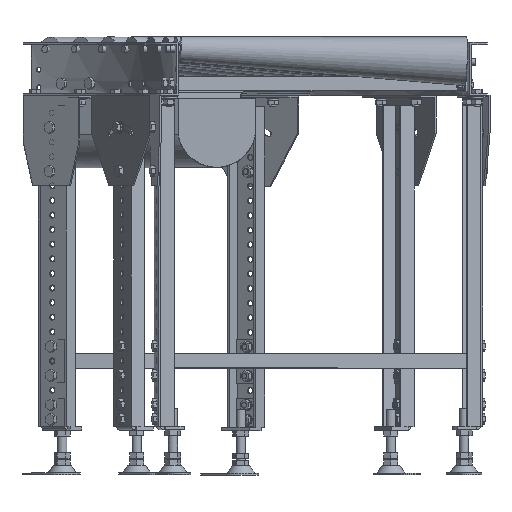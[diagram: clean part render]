
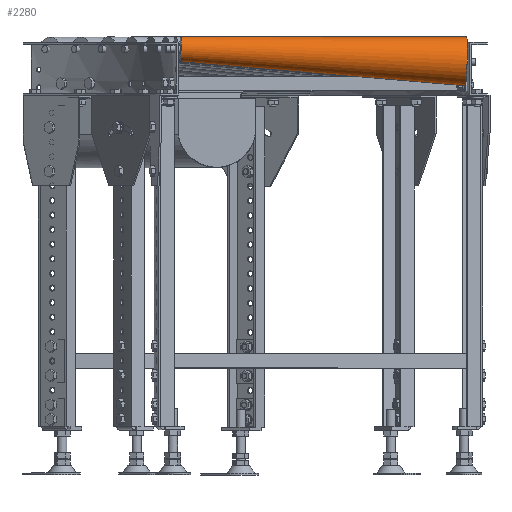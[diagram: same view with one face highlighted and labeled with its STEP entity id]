
A CAD part, top view. The second image highlights one B-rep face of the part: STEP entity #2280.
In plain terms, the highlighted free-form (B-spline) face has degree [2, 1] with [7, 2] control points.
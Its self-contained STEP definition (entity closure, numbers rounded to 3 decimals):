
#2280=ADVANCED_FACE('',(#10317),#10316,.T.);
#10316=( BOUNDED_SURFACE() B_SPLINE_SURFACE( 2,1,((#35501,#35502),(#35503,#35504),(#35505,#35506),(#35507,#35508),(#35509,#35510),(#35511,#35512),(#35513,#35514)), .UNSPECIFIED.,.T.,.F.,.F.) B_SPLINE_SURFACE_WITH_KNOTS((3,2,2,3),(2,2),(0.,0.333,0.667,1.),(0.,1.), .UNSPECIFIED. ) GEOMETRIC_REPRESENTATION_ITEM() RATIONAL_B_SPLINE_SURFACE(((1.,1.),(0.5,0.5),(1.,1.),(0.5,0.5),(1.,1.),(0.5,0.5),(1.,1.))) REPRESENTATION_ITEM('') SURFACE() );
#10317=FACE_OUTER_BOUND('',#35515,.T.);
#35501=CARTESIAN_POINT('',(505.58,-9.775,-15.153));
#35502=CARTESIAN_POINT('',(995.705,-19.271,-29.842));
#35503=CARTESIAN_POINT('',(505.58,-40.83,4.923));
#35504=CARTESIAN_POINT('',(995.705,-80.435,9.701));
#35505=CARTESIAN_POINT('',(503.088,-42.636,-31.928));
#35506=CARTESIAN_POINT('',(990.797,-83.993,-62.879));
#35507=CARTESIAN_POINT('',(500.596,-44.443,-68.779));
#35508=CARTESIAN_POINT('',(985.889,-87.552,-135.459));
#35509=CARTESIAN_POINT('',(503.088,-11.582,-52.004));
#35510=CARTESIAN_POINT('',(990.797,-22.829,-102.422));
#35511=CARTESIAN_POINT('',(505.58,21.28,-35.23));
#35512=CARTESIAN_POINT('',(995.705,41.893,-69.384));
#35513=CARTESIAN_POINT('',(505.58,-9.775,-15.153));
#35514=CARTESIAN_POINT('',(995.705,-19.271,-29.842));
#35515=EDGE_LOOP('',(#49819,#49820,#49821,#49822,#49823));
#49819=ORIENTED_EDGE('',*,*,#61787,.T.);
#49820=ORIENTED_EDGE('',*,*,#61797,.T.);
#49821=ORIENTED_EDGE('',*,*,#61790,.T.);
#49822=ORIENTED_EDGE('',*,*,#61797,.F.);
#49823=ORIENTED_EDGE('',*,*,#61786,.T.);
#61786=EDGE_CURVE('',#76547,#76548,#76549,.T.);
#61787=EDGE_CURVE('',#76548,#76547,#76555,.T.);
#61790=EDGE_CURVE('',#76575,#76575,#76576,.T.);
#61797=EDGE_CURVE('',#76547,#76575,#76622,.T.);
#76547=VERTEX_POINT('',#117231);
#76548=VERTEX_POINT('',#117232);
#76549=CIRCLE('',#117236,21.35);
#76555=CIRCLE('',#117240,21.35);
#76575=VERTEX_POINT('',#117251);
#76576=CIRCLE('',#117255,42.05);
#76622=(BOUNDED_CURVE() B_SPLINE_CURVE(1,(#117280,#117281),.UNSPECIFIED.,.F.,.F.) B_SPLINE_CURVE_WITH_KNOTS((2,2),(0.,1.),.UNSPECIFIED.) CURVE() GEOMETRIC_REPRESENTATION_ITEM() RATIONAL_B_SPLINE_CURVE((1.,1.)) REPRESENTATION_ITEM('') );
#117231=CARTESIAN_POINT('',(505.58,-9.775,-15.153));
#117232=CARTESIAN_POINT('',(502.257,-32.887,-50.904));
#117233=CARTESIAN_POINT('',(503.919,-21.331,-33.029));
#117234=DIRECTION('',(0.997,-0.042,-0.065));
#117235=DIRECTION('',(-0.078,-0.541,-0.837));
#117236=AXIS2_PLACEMENT_3D('',#117233,#117234,#117235);
#117237=CARTESIAN_POINT('',(503.919,-21.331,-33.029));
#117238=DIRECTION('',(0.997,-0.042,-0.065));
#117239=DIRECTION('',(-0.078,-0.541,-0.837));
#117240=AXIS2_PLACEMENT_3D('',#117237,#117238,#117239);
#117251=CARTESIAN_POINT('',(995.705,-19.271,-29.842));
#117252=CARTESIAN_POINT('',(992.433,-42.031,-65.048));
#117253=DIRECTION('',(-0.997,0.042,0.065));
#117254=DIRECTION('',(0.078,0.541,0.837));
#117255=AXIS2_PLACEMENT_3D('',#117252,#117253,#117254);
#117280=CARTESIAN_POINT('',(505.58,-9.775,-15.153));
#117281=CARTESIAN_POINT('',(995.705,-19.271,-29.842));
